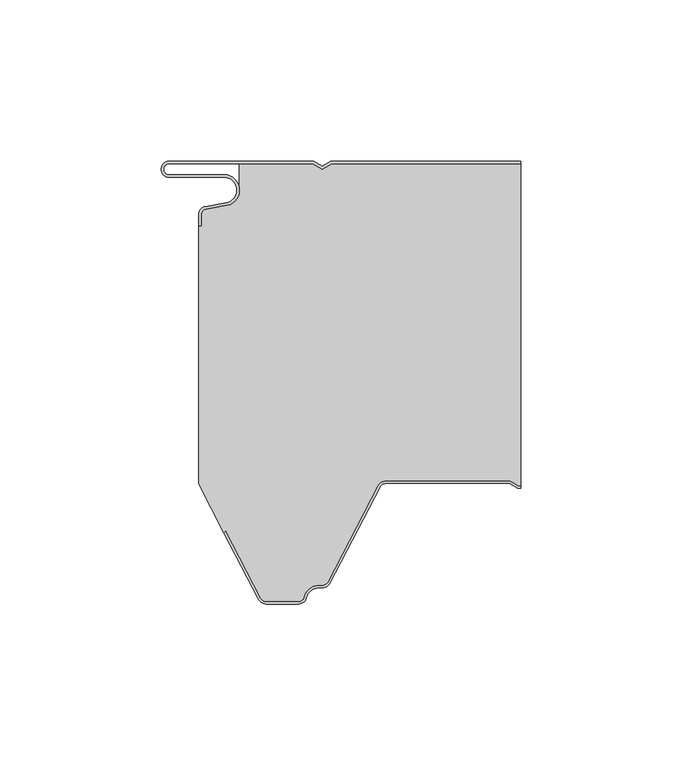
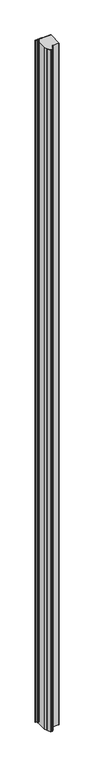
"""IFC4 building model written with IfcOpenShell, lengths in millimetres: plate geometry, ACH_Panel cubierta 5 grecas-PUR-PIR_P5G : ACH_Panel cubierta 5 grecas-PIR-P5G_100mm."""

from ifc_helpers import new_model, si_unit, frame, origin, place, context, project, spatial, polyline, circle_curve, source, transform, mapped, element, save
from ifc_brep_helpers import plane_surface, cylinder_surface, revolved_surface, advanced_brep


def plate_1ca22edd(model_context):
    return source(origin(), model_context, "Body", "AdvancedBrep", [
        advanced_brep(
        [(-50.0, -16.636349, 5000.0), (-50.0, -20.0, 5000.0), (-49.2, -20.0, 5000.0), (-49.2, -16.636349, 5000.0), (-47.7125667, -14.863695, 5000.0), (-41.266489, -13.7270771, 5000.0), (-42.1, -4.2, 5000.0), (-59.1, -4.2, 5000.0), (-59.1, -0.8, 5000.0), (-14.5143588, -0.8, 5000.0), (-11.6, -2.4826072, 5000.0), (-8.6856412, -0.8, 5000.0), (50.0, -0.8, 5000.0), (50.0, 0.0, 5000.0), (-8.9000007, 0.0, 5000.0), (-11.6, -1.5588466, 5000.0), (-14.2999993, 0.0, 5000.0), (-59.1, 0.0, 5000.0), (-59.1, -5.0, 5000.0), (-42.1, -5.0, 5000.0), (-41.4054075, -12.939231, 5000.0), (-47.851485, -14.075848, 5000.0), (-50.0, -16.636349, 0.0), (-47.8514853, -14.0758488, 0.0), (-41.4054075, -12.9392309, 0.0), (-42.1, -5.0, 0.0), (-59.1, -5.0, 0.0), (-59.1, 0.0, 0.0), (-14.2999993, 0.0, 0.0), (-11.6, -1.5588466, 0.0), (-8.9000007, 0.0, 0.0), (50.0, 0.0, 0.0), (50.0, -0.8, 0.0), (-8.6856412, -0.8, 0.0), (-11.6, -2.4826072, 0.0), (-14.5143588, -0.8, 0.0), (-59.1, -0.8, 0.0), (-59.1, -4.2, 0.0), (-42.1, -4.2, 0.0), (-41.266489, -13.7270773, 0.0), (-47.7125665, -14.8636942, 0.0), (-49.2, -16.636349, 0.0), (-49.2, -20.0, 0.0), (-50.0, -20.0, 0.0)],
        [
            (0, 1),
            (1, 2),
            (2, 3),
            (3, 4, circle_curve(frame((-47.4, -16.636349, 5000.0), z_axis=(0.0, 0.0, -1.0), x_axis=(1.0, 0.0, 0.0)), 1.8)),
            (4, 5),
            (5, 6, circle_curve(frame((-42.1, -9.0, 5000.0), z_axis=(0.0, 0.0, 1.0), x_axis=(1.0, 0.0, 0.0)), 4.8)),
            (6, 7),
            (7, 8, circle_curve(frame((-59.1, -2.5, 5000.0), z_axis=(0.0, 0.0, -1.0), x_axis=(1.0, 0.0, 0.0)), 1.7)),
            (8, 9),
            (9, 10),
            (10, 11),
            (11, 12),
            (12, 13),
            (13, 14),
            (14, 15),
            (15, 16),
            (16, 17),
            (17, 18, circle_curve(frame((-59.1, -2.5, 5000.0), z_axis=(0.0, 0.0, 1.0), x_axis=(1.0, 0.0, 0.0)), 2.5)),
            (18, 19),
            (19, 20, circle_curve(frame((-42.1, -9.0, 5000.0), z_axis=(0.0, 0.0, -1.0), x_axis=(1.0, 0.0, 0.0)), 4.0)),
            (20, 21),
            (21, 0, circle_curve(frame((-47.4, -16.636349, 5000.0), z_axis=(0.0, 0.0, 1.0), x_axis=(1.0, 0.0, 0.0)), 2.6)),
            (22, 23, circle_curve(frame((-47.4, -16.636349, 0.0), z_axis=(0.0, 0.0, -1.0), x_axis=(1.0, 0.0, 0.0)), 2.6)),
            (23, 24),
            (24, 25, circle_curve(frame((-42.1, -9.0, 0.0), z_axis=(0.0, 0.0, 1.0), x_axis=(1.0, 0.0, 0.0)), 4.0)),
            (25, 26),
            (26, 27, circle_curve(frame((-59.1, -2.5, 0.0), z_axis=(0.0, 0.0, -1.0), x_axis=(1.0, 0.0, 0.0)), 2.5)),
            (27, 28),
            (28, 29),
            (29, 30),
            (30, 31),
            (31, 32),
            (32, 33),
            (33, 34),
            (34, 35),
            (35, 36),
            (36, 37, circle_curve(frame((-59.1, -2.5, 0.0), z_axis=(0.0, 0.0, 1.0), x_axis=(1.0, 0.0, 0.0)), 1.7)),
            (37, 38),
            (38, 39, circle_curve(frame((-42.1, -9.0, 0.0), z_axis=(0.0, 0.0, -1.0), x_axis=(1.0, 0.0, 0.0)), 4.8)),
            (39, 40),
            (40, 41, circle_curve(frame((-47.4, -16.636349, 0.0), z_axis=(0.0, 0.0, 1.0), x_axis=(1.0, 0.0, 0.0)), 1.8)),
            (41, 42),
            (42, 43),
            (43, 22),
            (0, 22),
            (43, 1),
            (42, 2),
            (41, 3),
            (40, 4),
            (39, 5),
            (38, 6),
            (37, 7),
            (36, 8),
            (35, 9),
            (34, 10),
            (33, 11),
            (32, 12),
            (30, 14),
            (13, 31),
            (29, 15),
            (28, 16),
            (27, 17),
            (26, 18),
            (25, 19),
            (24, 20),
            (23, 21),
        ],
        [
            plane_surface(frame((-50.0, 0.0, 5000.0), z_axis=(0.0, 0.0, 1.0), x_axis=(0.0, 1.0, 0.0))),
            plane_surface(frame((-50.0, 0.0, 0.0), z_axis=(0.0, 0.0, -1.0), x_axis=(0.0, 1.0, 0.0))),
            plane_surface(frame((-50.0, -16.636349, 5000.0), z_axis=(-1.0, 0.0, 0.0), x_axis=(0.0, 0.0, -1.0))),
            plane_surface(frame((-50.0, -20.0, 5000.0), z_axis=(0.0, -1.0, 0.0), x_axis=(0.0, 0.0, -1.0))),
            plane_surface(frame((-49.2, -20.0, 5000.0), z_axis=(1.0, 0.0, 0.0), x_axis=(0.0, 0.0, -1.0))),
            revolved_surface(polyline([(-45.6, -16.636349, 0.0), (-45.6, -16.636349, 5000.0)]), (-47.4, -16.636349, 5000.0), (0.0, 0.0, -1.0)),
            plane_surface(frame((-47.7125665, -14.8636942, 5000.0), z_axis=(0.17364813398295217, -0.9848077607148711, 0.0), x_axis=(0.0, 0.0, -1.0))),
            cylinder_surface(frame((-42.1, -9.0, 5000.0), z_axis=(0.0, 0.0, 1.0), x_axis=(1.0, 0.0, 0.0)), 4.8),
            plane_surface(frame((-42.1, -4.2, 5000.0), z_axis=(0.0, 1.0, 0.0), x_axis=(0.0, 0.0, -1.0))),
            revolved_surface(polyline([(-57.4, -2.5, 0.0), (-57.4, -2.5, 5000.0)]), (-59.1, -2.5, 5000.0), (0.0, 0.0, -1.0)),
            plane_surface(frame((-59.1, -0.8, 5000.0), z_axis=(0.0, -1.0, 0.0), x_axis=(0.0, 0.0, -1.0))),
            plane_surface(frame((-14.5143588, -0.8, 5000.0), z_axis=(-0.5000003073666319, -0.8660252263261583, 0.0), x_axis=(0.0, 0.0, -1.0))),
            plane_surface(frame((-11.6, -2.4826072, 5000.0), z_axis=(0.5000003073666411, -0.866025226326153, 0.0), x_axis=(0.0, 0.0, -1.0))),
            plane_surface(frame((-8.6856412, -0.8, 5000.0), z_axis=(0.0, -1.0, 0.0), x_axis=(0.0, 0.0, -1.0))),
            plane_surface(frame((85.7000007, 0.0, 5000.0), z_axis=(0.0, 1.0, 0.0), x_axis=(0.0, 0.0, -1.0))),
            plane_surface(frame((-8.9000007, 0.0, 5000.0), z_axis=(-0.5000003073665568, 0.8660252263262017, 0.0), x_axis=(0.0, 0.0, -1.0))),
            plane_surface(frame((-11.6, -1.5588466, 5000.0), z_axis=(0.5000003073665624, 0.8660252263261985, 0.0), x_axis=(0.0, 0.0, -1.0))),
            plane_surface(frame((-14.2999993, 0.0, 5000.0), z_axis=(0.0, 1.0, 0.0), x_axis=(0.0, 0.0, -1.0))),
            cylinder_surface(frame((-59.1, -2.5, 5000.0), z_axis=(0.0, 0.0, 1.0), x_axis=(1.0, 0.0, 0.0)), 2.5),
            plane_surface(frame((-59.1, -5.0, 5000.0), z_axis=(0.0, -1.0, 0.0), x_axis=(0.0, 0.0, -1.0))),
            revolved_surface(polyline([(-38.1, -9.0, 0.0), (-38.1, -9.0, 5000.0)]), (-42.1, -9.0, 5000.0), (0.0, 0.0, -1.0)),
            plane_surface(frame((-41.4054075, -12.9392309, 5000.0), z_axis=(-0.17364813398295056, 0.9848077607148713, 0.0), x_axis=(0.0, 0.0, -1.0))),
            cylinder_surface(frame((-47.4, -16.636349, 5000.0), z_axis=(0.0, 0.0, 1.0), x_axis=(1.0, 0.0, 0.0)), 2.6),
            plane_surface(frame((50.0, 0.0, 5000.0), z_axis=(1.0, 0.0, 0.0), x_axis=(0.0, 0.0, -1.0))),
        ],
        [
            (0, [[1, 2, 3, 4, 5, 6, 7, 8, 9, 10, 11, 12, 13, 14, 15, 16, 17, 18, 19, 20, 21, 22]]),
            (1, [[23, 24, 25, 26, 27, 28, 29, 30, 31, 32, 33, 34, 35, 36, 37, 38, 39, 40, 41, 42, 43, 44]]),
            (2, [[-1, 45, -44, 46]]),
            (3, [[-2, -46, -43, 47]]),
            (4, [[-3, -47, -42, 48]]),
            (5, [[-4, -48, -41, 49]]),
            (6, [[-5, -49, -40, 50]]),
            (7, [[-6, -50, -39, 51]]),
            (8, [[-7, -51, -38, 52]]),
            (9, [[-8, -52, -37, 53]]),
            (10, [[-9, -53, -36, 54]]),
            (11, [[-10, -54, -35, 55]]),
            (12, [[-11, -55, -34, 56]]),
            (13, [[-56, -33, 57, -12]]),
            (14, [[58, -14, 59, -31]]),
            (15, [[-15, -58, -30, 60]]),
            (16, [[-16, -60, -29, 61]]),
            (17, [[-17, -61, -28, 62]]),
            (18, [[-18, -62, -27, 63]]),
            (19, [[-19, -63, -26, 64]]),
            (20, [[-20, -64, -25, 65]]),
            (21, [[-21, -65, -24, 66]]),
            (22, [[-22, -66, -23, -45]]),
            (23, [[-13, -57, -32, -59]]),
        ],
    ),
        advanced_brep(
        [(-30.6207387, -135.6314818, 0.0), (-41.5569015, -114.6340495, 0.0), (-42.1499858, -115.2271753, 0.0), (-50.0, -100.1551481, 0.0), (-50.0, -20.0, 0.0), (-49.2, -20.0, 0.0), (-49.2, -16.636349, 0.0), (-47.7125653, -14.8636948, 0.0), (-41.2664891, -13.7270773, 0.0), (-37.3182654, -8.5816526, 0.0), (-37.3182654, -0.8, 0.0), (-14.5143588, -0.8, 0.0), (-11.6, -2.4826072, 0.0), (-8.6856412, -0.8, 0.0), (50.0, -0.8, 0.0), (50.0, -100.7, 0.0), (49.2107961, -100.7, 0.0), (46.6127185, -99.2, 0.0), (8.090871, -99.2, 0.0), (5.6075115, -100.7065836, 0.0), (-9.9783733, -130.6314825, 0.0), (-11.574819, -131.6, 0.0), (-12.6272901, -131.6, 0.0), (-17.2841077, -135.2363636, 0.0), (-19.030414, -136.5999997, 0.0), (-29.024293, -136.5999997, 0.0), (-30.6207383, -135.6314813, 5000.0), (-29.024293, -136.5999997, 5000.0), (-19.030414, -136.5999997, 5000.0), (-17.2841077, -135.2363636, 5000.0), (-12.6272901, -131.6, 5000.0), (-11.574819, -131.6, 5000.0), (-9.9783737, -130.631482, 5000.0), (5.6075107, -100.7065835, 5000.0), (8.090871, -99.2, 5000.0), (46.6127185, -99.2, 5000.0), (49.2107961, -100.7, 5000.0), (50.0, -100.7, 5000.0), (50.0, -0.8, 5000.0), (-8.6856412, -0.8, 5000.0), (-11.6, -2.4826072, 5000.0), (-14.5143588, -0.8, 5000.0), (-37.3182654, -0.8, 5000.0), (-37.3182654, -8.5816526, 5000.0), (-41.2664891, -13.7270773, 5000.0), (-47.7125651, -14.863694, 5000.0), (-49.2, -16.636349, 5000.0), (-49.2, -20.0, 5000.0), (-50.0, -20.0, 5000.0), (-50.0, -100.1551481, 5000.0), (-42.1499858, -115.2271753, 5000.0), (-41.5569015, -114.6340495, 5000.0)],
        [
            (0, 1),
            (1, 2),
            (2, 3),
            (3, 4),
            (4, 5),
            (5, 6),
            (6, 7, circle_curve(frame((-47.4, -16.636349, 0.0), z_axis=(0.0, 0.0, -1.0), x_axis=(-1.0, 0.0, 0.0)), 1.8)),
            (7, 8),
            (8, 9, circle_curve(frame((-42.1, -9.0, 0.0), z_axis=(0.0, 0.0, 1.0), x_axis=(-1.0, 0.0, 0.0)), 4.8)),
            (9, 10),
            (10, 11),
            (11, 12),
            (12, 13),
            (13, 14),
            (14, 15),
            (15, 16),
            (16, 17),
            (17, 18),
            (18, 19, circle_curve(frame((8.090871, -102.0, 0.0), z_axis=(0.0, 0.0, 1.0), x_axis=(-1.0, 0.0, 0.0)), 2.8)),
            (19, 20),
            (20, 21, circle_curve(frame((-11.574819, -129.8, 0.0), z_axis=(0.0, 0.0, -1.0), x_axis=(-1.0, 0.0, 0.0)), 1.8)),
            (21, 22),
            (22, 23, circle_curve(frame((-12.6272901, -136.4, 0.0), z_axis=(0.0, 0.0, 1.0), x_axis=(-1.0, 0.0, 0.0)), 4.8)),
            (23, 24, circle_curve(frame((-19.030414, -134.8, 0.0), z_axis=(0.0, 0.0, -1.0), x_axis=(-1.0, 0.0, 0.0)), 1.7999997)),
            (24, 25),
            (25, 0, circle_curve(frame((-29.024293, -134.8, 0.0), z_axis=(0.0, 0.0, -1.0), x_axis=(-1.0, 0.0, 0.0)), 1.7999997)),
            (26, 27, circle_curve(frame((-29.024293, -134.8, 5000.0), z_axis=(0.0, 0.0, 1.0), x_axis=(-1.0, 0.0, 0.0)), 1.7999997)),
            (27, 28),
            (28, 29, circle_curve(frame((-19.030414, -134.8, 5000.0), z_axis=(0.0, 0.0, 1.0), x_axis=(-1.0, 0.0, 0.0)), 1.7999997)),
            (29, 30, circle_curve(frame((-12.6272901, -136.4, 5000.0), z_axis=(0.0, 0.0, -1.0), x_axis=(-1.0, 0.0, 0.0)), 4.8)),
            (30, 31),
            (31, 32, circle_curve(frame((-11.574819, -129.8, 5000.0), z_axis=(0.0, 0.0, 1.0), x_axis=(-1.0, 0.0, 0.0)), 1.8)),
            (32, 33),
            (33, 34, circle_curve(frame((8.090871, -102.0, 5000.0), z_axis=(0.0, 0.0, -1.0), x_axis=(-1.0, 0.0, 0.0)), 2.8)),
            (34, 35),
            (35, 36),
            (36, 37),
            (37, 38),
            (38, 39),
            (39, 40),
            (40, 41),
            (41, 42),
            (42, 43),
            (43, 44, circle_curve(frame((-42.1, -9.0, 5000.0), z_axis=(0.0, 0.0, -1.0), x_axis=(-1.0, 0.0, 0.0)), 4.8)),
            (44, 45),
            (45, 46, circle_curve(frame((-47.4, -16.636349, 5000.0), z_axis=(0.0, 0.0, 1.0), x_axis=(-1.0, 0.0, 0.0)), 1.8)),
            (46, 47),
            (47, 48),
            (48, 49),
            (49, 50),
            (50, 51),
            (51, 26),
            (0, 26),
            (51, 1),
            (50, 2),
            (49, 3),
            (48, 4),
            (47, 5),
            (46, 6),
            (45, 7),
            (44, 8),
            (43, 9),
            (42, 10),
            (41, 11),
            (40, 12),
            (39, 13),
            (38, 14),
            (36, 16),
            (15, 37),
            (35, 17),
            (34, 18),
            (33, 19),
            (32, 20),
            (31, 21),
            (30, 22),
            (29, 23),
            (28, 24),
            (27, 25),
        ],
        [
            plane_surface(frame((-50.0, 0.0, 0.0), z_axis=(0.0, 0.0, -1.0), x_axis=(0.0, 1.0, 0.0))),
            plane_surface(frame((-50.0, 0.0, 5000.0), z_axis=(0.0, 0.0, 1.0), x_axis=(0.0, 1.0, 0.0))),
            plane_surface(frame((-30.6207387, -135.6314818, 0.0), z_axis=(-0.8869140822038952, -0.46193442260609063, 0.0), x_axis=(0.0, 0.0, 1.0))),
            plane_surface(frame((-41.5569015, -114.6340495, 0.0), z_axis=(0.7071314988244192, -0.7070820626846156, 0.0), x_axis=(0.0, 0.0, 1.0))),
            plane_surface(frame((-42.1499858, -115.2271753, 0.0), z_axis=(-0.8869140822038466, -0.46193442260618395, 0.0), x_axis=(0.0, 0.0, 1.0))),
            plane_surface(frame((-50.0, -100.1551481, 0.0), z_axis=(-1.0, 0.0, 0.0), x_axis=(0.0, 0.0, 1.0))),
            plane_surface(frame((-50.0, -20.0, 0.0), z_axis=(0.0, 1.0, 0.0), x_axis=(0.0, 0.0, 1.0))),
            plane_surface(frame((-49.2, -20.0, 0.0), z_axis=(-1.0, 0.0, 0.0), x_axis=(0.0, 0.0, 1.0))),
            cylinder_surface(frame((-47.4, -16.636349, 0.0), z_axis=(0.0, 0.0, -1.0), x_axis=(-1.0, 0.0, 0.0)), 1.8),
            plane_surface(frame((-47.7125651, -14.863694, 0.0), z_axis=(-0.17364811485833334, 0.9848077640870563, 0.0), x_axis=(0.0, 0.0, 1.0))),
            revolved_surface(polyline([(-46.9, -9.0, 5000.0), (-46.9, -9.0, 0.0)]), (-42.1, -9.0, 0.0), (0.0, 0.0, 1.0)),
            plane_surface(frame((-37.3182654, -8.5816526, 0.0), z_axis=(-1.0, 0.0, 0.0), x_axis=(0.0, 0.0, 1.0))),
            plane_surface(frame((-37.3182654, -0.8, 0.0), z_axis=(0.0, 1.0, 0.0), x_axis=(0.0, 0.0, 1.0))),
            plane_surface(frame((-14.5143588, -0.8, 0.0), z_axis=(0.500000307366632, 0.8660252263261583, 0.0), x_axis=(0.0, 0.0, 1.0))),
            plane_surface(frame((-11.6, -2.4826072, 0.0), z_axis=(-0.500000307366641, 0.8660252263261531, 0.0), x_axis=(0.0, 0.0, 1.0))),
            plane_surface(frame((-8.6856412, -0.8, 0.0), z_axis=(0.0, 1.0, 0.0), x_axis=(0.0, 0.0, 1.0))),
            plane_surface(frame((81.5859248, -100.7, 0.0), z_axis=(0.0, -1.0, 0.0), x_axis=(0.0, 0.0, 1.0))),
            plane_surface(frame((49.2107961, -100.7, 0.0), z_axis=(-0.49999979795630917, -0.8660255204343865, 0.0), x_axis=(0.0, 0.0, 1.0))),
            plane_surface(frame((46.6127185, -99.2, 0.0), z_axis=(0.0, -1.0, 0.0), x_axis=(0.0, 0.0, 1.0))),
            revolved_surface(polyline([(5.290871, -102.0, 5000.0), (5.290871, -102.0, 0.0)]), (8.090871, -102.0, 0.0), (0.0, 0.0, 1.0)),
            plane_surface(frame((5.6075107, -100.7065835, 0.0), z_axis=(0.8869140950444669, -0.46193439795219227, 0.0), x_axis=(0.0, 0.0, 1.0))),
            cylinder_surface(frame((-11.574819, -129.8, 0.0), z_axis=(0.0, 0.0, -1.0), x_axis=(-1.0, 0.0, 0.0)), 1.8),
            plane_surface(frame((-11.574819, -131.6, 0.0), z_axis=(0.0, -1.0, 0.0), x_axis=(0.0, 0.0, 1.0))),
            revolved_surface(polyline([(-17.4272901, -136.4, 5000.0), (-17.4272901, -136.4, 0.0)]), (-12.6272901, -136.4, 0.0), (0.0, 0.0, 1.0)),
            cylinder_surface(frame((-19.030414, -134.8, 0.0), z_axis=(0.0, 0.0, -1.0), x_axis=(-1.0, 0.0, 0.0)), 1.7999997),
            plane_surface(frame((-19.030414, -136.5999997, 0.0), z_axis=(0.0, -1.0, 0.0), x_axis=(0.0, 0.0, 1.0))),
            cylinder_surface(frame((-29.024293, -134.8, 0.0), z_axis=(0.0, 0.0, -1.0), x_axis=(-1.0, 0.0, 0.0)), 1.7999997),
            plane_surface(frame((50.0, 0.0, 5000.0), z_axis=(1.0, 0.0, 0.0), x_axis=(0.0, 0.0, -1.0))),
        ],
        [
            (0, [[1, 2, 3, 4, 5, 6, 7, 8, 9, 10, 11, 12, 13, 14, 15, 16, 17, 18, 19, 20, 21, 22, 23, 24, 25, 26]]),
            (1, [[27, 28, 29, 30, 31, 32, 33, 34, 35, 36, 37, 38, 39, 40, 41, 42, 43, 44, 45, 46, 47, 48, 49, 50, 51, 52]]),
            (2, [[-1, 53, -52, 54]]),
            (3, [[-2, -54, -51, 55]]),
            (4, [[-3, -55, -50, 56]]),
            (5, [[-4, -56, -49, 57]]),
            (6, [[-5, -57, -48, 58]]),
            (7, [[-6, -58, -47, 59]]),
            (8, [[-7, -59, -46, 60]]),
            (9, [[-8, -60, -45, 61]]),
            (10, [[-9, -61, -44, 62]]),
            (11, [[-10, -62, -43, 63]]),
            (12, [[-11, -63, -42, 64]]),
            (13, [[-12, -64, -41, 65]]),
            (14, [[-13, -65, -40, 66]]),
            (15, [[-66, -39, 67, -14]]),
            (16, [[68, -16, 69, -37]]),
            (17, [[-17, -68, -36, 70]]),
            (18, [[-18, -70, -35, 71]]),
            (19, [[-19, -71, -34, 72]]),
            (20, [[-20, -72, -33, 73]]),
            (21, [[-21, -73, -32, 74]]),
            (22, [[-22, -74, -31, 75]]),
            (23, [[-23, -75, -30, 76]]),
            (24, [[-24, -76, -29, 77]]),
            (25, [[-25, -77, -28, 78]]),
            (26, [[-26, -78, -27, -53]]),
            (27, [[-15, -67, -38, -69]]),
        ],
    ),
        advanced_brep(
        [(49.2107962, -100.7, 5000.0), (46.6127186, -99.2, 5000.0), (8.090871, -99.2, 5000.0), (5.6075116, -100.7065836, 5000.0), (-9.9783733, -130.6314825, 5000.0), (-11.574819, -131.6, 5000.0), (-12.62729, -131.6, 5000.0), (-17.2841076, -135.2363636, 5000.0), (-19.030414, -136.6, 5000.0), (-29.024293, -136.6, 5000.0), (-30.6207383, -135.631482, 5000.0), (-41.5569015, -114.6340495, 5000.0), (-42.15, -115.227148, 5000.0), (-31.33027, -136.00103, 5000.0), (-29.024293, -137.4, 5000.0), (-19.030414, -137.4, 5000.0), (-16.5079711, -135.4303031, 5000.0), (-12.62729, -132.4, 5000.0), (-11.574819, -132.4, 5000.0), (-9.2688424, -131.0010295, 5000.0), (6.317042, -101.076131, 5000.0), (8.090871, -100.0, 5000.0), (46.3983593, -100.0, 5000.0), (48.9964369, -101.5, 5000.0), (50.0, -101.5, 5000.0), (50.0, -100.7, 5000.0), (48.9964369, -101.5, 0.0), (46.3983593, -100.0, 0.0), (8.090871, -100.0, 0.0), (6.3170428, -101.0761312, 0.0), (-9.268842, -131.00103, 0.0), (-11.574819, -132.4, 0.0), (-12.62729, -132.4, 0.0), (-16.5079713, -135.430303, 0.0), (-19.030414, -137.4, 0.0), (-29.024293, -137.4, 0.0), (-31.3302696, -136.0010295, 0.0), (-42.15, -115.227148, 0.0), (-41.5569015, -114.6340495, 0.0), (-30.6207387, -135.6314825, 0.0), (-29.024293, -136.6, 0.0), (-19.030414, -136.6, 0.0), (-17.2841074, -135.2363637, 0.0), (-12.62729, -131.6, 0.0), (-11.574819, -131.6, 0.0), (-9.9783737, -130.631482, 0.0), (5.6075107, -100.7065835, 0.0), (8.090871, -99.2, 0.0), (46.6127186, -99.2, 0.0), (49.2107962, -100.7, 0.0), (50.0, -100.7, 0.0), (50.0, -101.5, 0.0)],
        [
            (0, 1),
            (1, 2),
            (2, 3, circle_curve(frame((8.090871, -102.0, 5000.0), z_axis=(0.0, 0.0, 1.0), x_axis=(1.0, 0.0, 0.0)), 2.8)),
            (3, 4),
            (4, 5, circle_curve(frame((-11.574819, -129.8, 5000.0), z_axis=(0.0, 0.0, -1.0), x_axis=(1.0, 0.0, 0.0)), 1.8)),
            (5, 6),
            (6, 7, circle_curve(frame((-12.62729, -136.4, 5000.0), z_axis=(0.0, 0.0, 1.0), x_axis=(1.0, 0.0, 0.0)), 4.8)),
            (7, 8, circle_curve(frame((-19.030414, -134.8, 5000.0), z_axis=(0.0, 0.0, -1.0), x_axis=(1.0, 0.0, 0.0)), 1.8)),
            (8, 9),
            (9, 10, circle_curve(frame((-29.024293, -134.8, 5000.0), z_axis=(0.0, 0.0, -1.0), x_axis=(1.0, 0.0, 0.0)), 1.8)),
            (10, 11),
            (11, 12),
            (12, 13),
            (13, 14, circle_curve(frame((-29.024293, -134.8, 5000.0), z_axis=(0.0, 0.0, 1.0), x_axis=(1.0, 0.0, 0.0)), 2.6)),
            (14, 15),
            (15, 16, circle_curve(frame((-19.030414, -134.8, 5000.0), z_axis=(0.0, 0.0, 1.0), x_axis=(1.0, 0.0, 0.0)), 2.6)),
            (16, 17, circle_curve(frame((-12.62729, -136.4, 5000.0), z_axis=(0.0, 0.0, -1.0), x_axis=(1.0, 0.0, 0.0)), 4.0)),
            (17, 18),
            (18, 19, circle_curve(frame((-11.574819, -129.8, 5000.0), z_axis=(0.0, 0.0, 1.0), x_axis=(1.0, 0.0, 0.0)), 2.6)),
            (19, 20),
            (20, 21, circle_curve(frame((8.090871, -102.0, 5000.0), z_axis=(0.0, 0.0, -1.0), x_axis=(1.0, 0.0, 0.0)), 2.0)),
            (21, 22),
            (22, 23),
            (23, 24),
            (24, 25),
            (25, 0),
            (26, 27),
            (27, 28),
            (28, 29, circle_curve(frame((8.090871, -102.0, 0.0), z_axis=(0.0, 0.0, 1.0), x_axis=(1.0, 0.0, 0.0)), 2.0)),
            (29, 30),
            (30, 31, circle_curve(frame((-11.574819, -129.8, 0.0), z_axis=(0.0, 0.0, -1.0), x_axis=(1.0, 0.0, 0.0)), 2.6)),
            (31, 32),
            (32, 33, circle_curve(frame((-12.62729, -136.4, 0.0), z_axis=(0.0, 0.0, 1.0), x_axis=(1.0, 0.0, 0.0)), 4.0)),
            (33, 34, circle_curve(frame((-19.030414, -134.8, 0.0), z_axis=(0.0, 0.0, -1.0), x_axis=(1.0, 0.0, 0.0)), 2.6)),
            (34, 35),
            (35, 36, circle_curve(frame((-29.024293, -134.8, 0.0), z_axis=(0.0, 0.0, -1.0), x_axis=(1.0, 0.0, 0.0)), 2.6)),
            (36, 37),
            (37, 38),
            (38, 39),
            (39, 40, circle_curve(frame((-29.024293, -134.8, 0.0), z_axis=(0.0, 0.0, 1.0), x_axis=(1.0, 0.0, 0.0)), 1.8)),
            (40, 41),
            (41, 42, circle_curve(frame((-19.030414, -134.8, 0.0), z_axis=(0.0, 0.0, 1.0), x_axis=(1.0, 0.0, 0.0)), 1.8)),
            (42, 43, circle_curve(frame((-12.62729, -136.4, 0.0), z_axis=(0.0, 0.0, -1.0), x_axis=(1.0, 0.0, 0.0)), 4.8)),
            (43, 44),
            (44, 45, circle_curve(frame((-11.574819, -129.8, 0.0), z_axis=(0.0, 0.0, 1.0), x_axis=(1.0, 0.0, 0.0)), 1.8)),
            (45, 46),
            (46, 47, circle_curve(frame((8.090871, -102.0, 0.0), z_axis=(0.0, 0.0, -1.0), x_axis=(1.0, 0.0, 0.0)), 2.8)),
            (47, 48),
            (48, 49),
            (49, 50),
            (50, 51),
            (51, 26),
            (49, 0),
            (25, 50),
            (48, 1),
            (47, 2),
            (46, 3),
            (45, 4),
            (44, 5),
            (43, 6),
            (42, 7),
            (41, 8),
            (40, 9),
            (39, 10),
            (38, 11),
            (37, 12),
            (36, 13),
            (35, 14),
            (34, 15),
            (33, 16),
            (32, 17),
            (31, 18),
            (30, 19),
            (29, 20),
            (28, 21),
            (27, 22),
            (26, 23),
            (51, 24),
        ],
        [
            plane_surface(frame((-50.0, -100.0, 5000.0), z_axis=(0.0, 0.0, 1.0), x_axis=(0.0, 1.0, 0.0))),
            plane_surface(frame((-50.0, -100.0, 0.0), z_axis=(0.0, 0.0, -1.0), x_axis=(0.0, 1.0, 0.0))),
            plane_surface(frame((81.5859248, -100.7, 5000.0), z_axis=(0.0, 1.0, 0.0), x_axis=(0.0, 0.0, -1.0))),
            plane_surface(frame((49.2107962, -100.7, 5000.0), z_axis=(0.4999997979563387, 0.8660255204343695, 0.0), x_axis=(0.0, 0.0, -1.0))),
            plane_surface(frame((46.6127186, -99.2, 5000.0), z_axis=(0.0, 1.0, 0.0), x_axis=(0.0, 0.0, -1.0))),
            cylinder_surface(frame((8.090871, -102.0, 5000.0), z_axis=(0.0, 0.0, 1.0), x_axis=(1.0, 0.0, 0.0)), 2.8),
            plane_surface(frame((5.6075107, -100.7065835, 5000.0), z_axis=(-0.8869140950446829, 0.4619343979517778, 0.0), x_axis=(0.0, 0.0, -1.0))),
            revolved_surface(polyline([(-9.774818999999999, -129.8, 0.0), (-9.774818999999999, -129.8, 5000.0)]), (-11.574819, -129.8, 5000.0), (0.0, 0.0, -1.0)),
            plane_surface(frame((-11.574819, -131.6, 5000.0), z_axis=(0.0, 1.0, 0.0), x_axis=(0.0, 0.0, -1.0))),
            cylinder_surface(frame((-12.62729, -136.4, 5000.0), z_axis=(0.0, 0.0, 1.0), x_axis=(1.0, 0.0, 0.0)), 4.8),
            revolved_surface(polyline([(-17.230414, -134.8, 0.0), (-17.230414, -134.8, 5000.0)]), (-19.030414, -134.8, 5000.0), (0.0, 0.0, -1.0)),
            plane_surface(frame((-19.030414, -136.6, 5000.0), z_axis=(0.0, 1.0, 0.0), x_axis=(0.0, 0.0, -1.0))),
            revolved_surface(polyline([(-27.224293, -134.8, 0.0), (-27.224293, -134.8, 5000.0)]), (-29.024293, -134.8, 5000.0), (0.0, 0.0, -1.0)),
            plane_surface(frame((-30.6207387, -135.6314825, 5000.0), z_axis=(0.8869140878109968, 0.46193441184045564, 0.0), x_axis=(0.0, 0.0, -1.0))),
            plane_surface(frame((-41.5569015, -114.6340495, 5000.0), z_axis=(-0.7071067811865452, 0.7071067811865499, 0.0), x_axis=(0.0, 0.0, -1.0))),
            plane_surface(frame((-42.15, -115.227148, 5000.0), z_axis=(-0.8869140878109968, -0.46193441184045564, 0.0), x_axis=(0.0, 0.0, -1.0))),
            cylinder_surface(frame((-29.024293, -134.8, 5000.0), z_axis=(0.0, 0.0, 1.0), x_axis=(1.0, 0.0, 0.0)), 2.6),
            plane_surface(frame((-29.024293, -137.4, 5000.0), z_axis=(0.0, -1.0, 0.0), x_axis=(0.0, 0.0, -1.0))),
            cylinder_surface(frame((-19.030414, -134.8, 5000.0), z_axis=(0.0, 0.0, 1.0), x_axis=(1.0, 0.0, 0.0)), 2.6),
            revolved_surface(polyline([(-8.62729, -136.4, 0.0), (-8.62729, -136.4, 5000.0)]), (-12.62729, -136.4, 5000.0), (0.0, 0.0, -1.0)),
            plane_surface(frame((-12.62729, -132.4, 5000.0), z_axis=(0.0, -1.0, 0.0), x_axis=(0.0, 0.0, -1.0))),
            cylinder_surface(frame((-11.574819, -129.8, 5000.0), z_axis=(0.0, 0.0, 1.0), x_axis=(1.0, 0.0, 0.0)), 2.6),
            plane_surface(frame((-9.268842, -131.00103, 5000.0), z_axis=(0.8869140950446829, -0.4619343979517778, 0.0), x_axis=(0.0, 0.0, -1.0))),
            revolved_surface(polyline([(10.090871, -102.0, 0.0), (10.090871, -102.0, 5000.0)]), (8.090871, -102.0, 5000.0), (0.0, 0.0, -1.0)),
            plane_surface(frame((8.090871, -100.0, 5000.0), z_axis=(0.0, -1.0, 0.0), x_axis=(0.0, 0.0, -1.0))),
            plane_surface(frame((46.3983593, -100.0, 5000.0), z_axis=(-0.4999997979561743, -0.8660255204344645, 0.0), x_axis=(0.0, 0.0, -1.0))),
            plane_surface(frame((48.9964369, -101.5, 5000.0), z_axis=(0.0, -1.0, 0.0), x_axis=(0.0, 0.0, -1.0))),
            plane_surface(frame((50.0, 0.0, 5000.0), z_axis=(1.0, 0.0, 0.0), x_axis=(0.0, 0.0, -1.0))),
        ],
        [
            (0, [[1, 2, 3, 4, 5, 6, 7, 8, 9, 10, 11, 12, 13, 14, 15, 16, 17, 18, 19, 20, 21, 22, 23, 24, 25, 26]]),
            (1, [[27, 28, 29, 30, 31, 32, 33, 34, 35, 36, 37, 38, 39, 40, 41, 42, 43, 44, 45, 46, 47, 48, 49, 50, 51, 52]]),
            (2, [[53, -26, 54, -50]]),
            (3, [[-1, -53, -49, 55]]),
            (4, [[-2, -55, -48, 56]]),
            (5, [[-3, -56, -47, 57]]),
            (6, [[-4, -57, -46, 58]]),
            (7, [[-5, -58, -45, 59]]),
            (8, [[-6, -59, -44, 60]]),
            (9, [[-7, -60, -43, 61]]),
            (10, [[-8, -61, -42, 62]]),
            (11, [[-9, -62, -41, 63]]),
            (12, [[-10, -63, -40, 64]]),
            (13, [[-11, -64, -39, 65]]),
            (14, [[-12, -65, -38, 66]]),
            (15, [[-13, -66, -37, 67]]),
            (16, [[-14, -67, -36, 68]]),
            (17, [[-15, -68, -35, 69]]),
            (18, [[-16, -69, -34, 70]]),
            (19, [[-17, -70, -33, 71]]),
            (20, [[-18, -71, -32, 72]]),
            (21, [[-19, -72, -31, 73]]),
            (22, [[-20, -73, -30, 74]]),
            (23, [[-21, -74, -29, 75]]),
            (24, [[-22, -75, -28, 76]]),
            (25, [[-23, -76, -27, 77]]),
            (26, [[-77, -52, 78, -24]]),
            (27, [[-25, -78, -51, -54]]),
        ],
    ),
    ])


if __name__ == "__main__":
    model = new_model("IFC4")
    model_context = context("Model", 3, world=origin())
    ifc_project = project(units=[si_unit("LENGTHUNIT", "METRE", prefix="MILLI")], contexts=[model_context])
    site = spatial("IfcSite", under=ifc_project)
    building = spatial("IfcBuilding", under=site)
    placement = place(None, origin())
    plate_shape = plate_1ca22edd(model_context)
    element("IfcPlate", 1, ObjectType="ACH_Panel cubierta 5 grecas-PUR-PIR_P5G : ACH_Panel cubierta 5 grecas-PIR-P5G_100mm", at=placement, inside=building, context=model_context, shape_type="MappedRepresentation", body=[
        mapped(plate_shape, transform((0.0, 0.0, 0.0), x_axis=(1.0, 0.0, 0.0), y_axis=(0.0, 1.0, 0.0), z_axis=(0.0, 0.0, 1.0))),
    ])
    save(model, "model.ifc")
